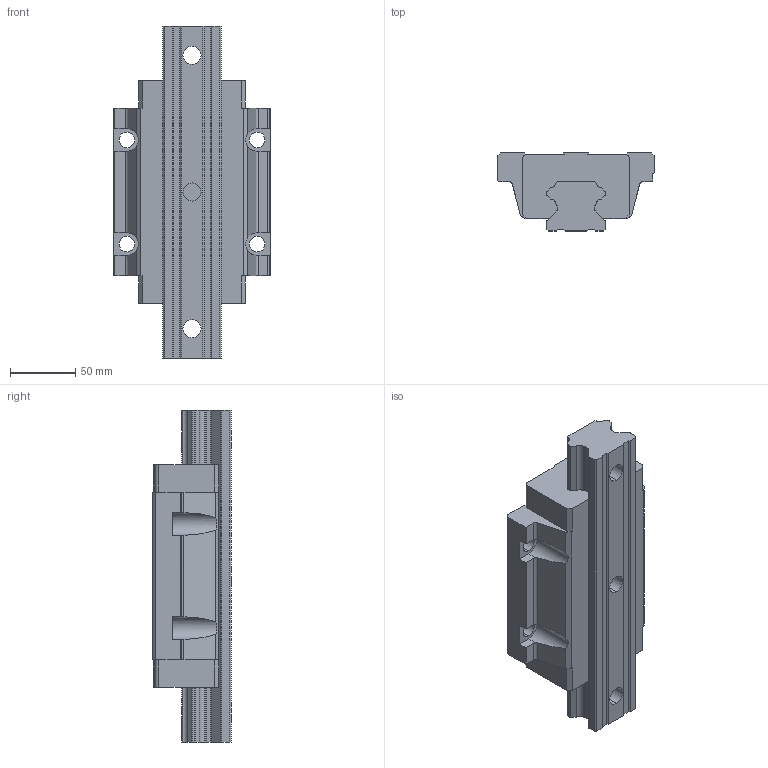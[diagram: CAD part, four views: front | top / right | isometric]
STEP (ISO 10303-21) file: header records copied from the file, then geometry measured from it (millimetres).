
FILE_DESCRIPTION (( 'STEP AP214' ), '1' );
FILE_NAME ('2.1013 Lineaarikelkka HGW45HA.STEP', '2024-04-26T10:54:33', ( '' ), ( '' ), 'SwSTEP 2.0', 'SolidWorks 2024', '' );
FILE_SCHEMA (( 'AUTOMOTIVE_DESIGN' ));
Length unit declared in the file: millimetre
Products named in the file (1): 2.1013 Lineaarikelkka HGW45HA
Bounding box: 120 x 60 x 255 mm (x, y, z)
Volume: 979846.9 mm3; surface area: 126593.5 mm2
Topology: 2 solids, 2 shells, 186 faces, 537 edges, 358 vertices
Faces by surface type: plane 120, cylinder 66
Entity records: 8335 total; most frequent: CARTESIAN_POINT 1254, ORIENTED_EDGE 1074, DIRECTION 1019, EDGE_CURVE 537, LINE 389, VECTOR 389, VERTEX_POINT 358, AXIS2_PLACEMENT_3D 315
